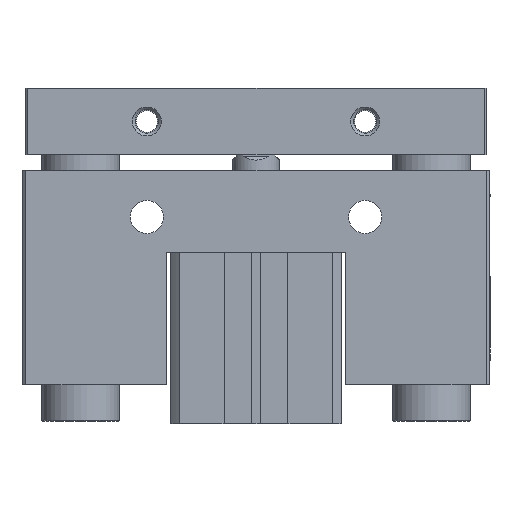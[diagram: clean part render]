
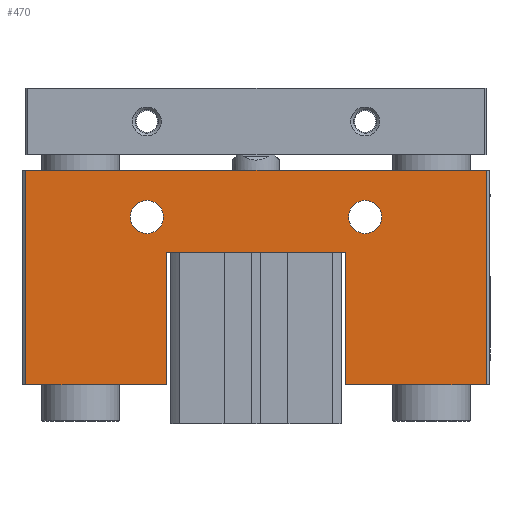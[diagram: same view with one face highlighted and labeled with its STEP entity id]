
A CAD part, front view. The second image highlights one B-rep face of the part: STEP entity #470.
In plain terms, the highlighted planar face has unit normal (0, -1, 0).
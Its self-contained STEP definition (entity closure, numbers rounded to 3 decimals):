
#199=CARTESIAN_POINT('',(-62.726,-23.62,65.));
#200=VERTEX_POINT('',#199);
#207=CARTESIAN_POINT('',(55.274,-23.62,65.));
#208=VERTEX_POINT('',#207);
#209=CARTESIAN_POINT('',(-62.726,-23.62,65.));
#210=DIRECTION('',(1.0,0.0,0.0));
#211=VECTOR('',#210,118.);
#212=LINE('',#209,#211);
#213=EDGE_CURVE('',#200,#208,#212,.T.);
#376=CARTESIAN_POINT('',(-62.726,-23.62,10.));
#377=VERTEX_POINT('',#376);
#384=CARTESIAN_POINT('',(-62.726,-23.62,10.));
#385=DIRECTION('',(0.0,0.0,1.0));
#386=VECTOR('',#385,55.);
#387=LINE('',#384,#386);
#388=EDGE_CURVE('',#377,#200,#387,.T.);
#393=CARTESIAN_POINT('',(-3.726,-23.62,39.533));
#394=DIRECTION('',(0.0,1.0,0.0));
#395=DIRECTION('',(0.0,0.0,1.0));
#396=AXIS2_PLACEMENT_3D('',#393,#394,#395);
#397=PLANE('',#396);
#398=ORIENTED_EDGE('',*,*,#388,.F.);
#399=CARTESIAN_POINT('',(-26.726,-23.62,10.));
#400=VERTEX_POINT('',#399);
#401=CARTESIAN_POINT('',(-26.726,-23.62,10.));
#402=DIRECTION('',(-1.0,0.0,0.0));
#403=VECTOR('',#402,36.);
#404=LINE('',#401,#403);
#405=EDGE_CURVE('',#400,#377,#404,.T.);
#406=ORIENTED_EDGE('',*,*,#405,.F.);
#407=CARTESIAN_POINT('',(-26.726,-23.62,44.0));
#408=VERTEX_POINT('',#407);
#409=CARTESIAN_POINT('',(-26.726,-23.62,44.0));
#410=DIRECTION('',(0.0,0.0,-1.0));
#411=VECTOR('',#410,34.);
#412=LINE('',#409,#411);
#413=EDGE_CURVE('',#408,#400,#412,.T.);
#414=ORIENTED_EDGE('',*,*,#413,.F.);
#415=CARTESIAN_POINT('',(19.274,-23.62,44.0));
#416=VERTEX_POINT('',#415);
#417=CARTESIAN_POINT('',(19.274,-23.62,44.0));
#418=DIRECTION('',(-1.0,0.0,0.0));
#419=VECTOR('',#418,46.);
#420=LINE('',#417,#419);
#421=EDGE_CURVE('',#416,#408,#420,.T.);
#422=ORIENTED_EDGE('',*,*,#421,.F.);
#423=CARTESIAN_POINT('',(19.274,-23.62,10.));
#424=VERTEX_POINT('',#423);
#425=CARTESIAN_POINT('',(19.274,-23.62,10.));
#426=DIRECTION('',(0.0,0.0,1.0));
#427=VECTOR('',#426,34.);
#428=LINE('',#425,#427);
#429=EDGE_CURVE('',#424,#416,#428,.T.);
#430=ORIENTED_EDGE('',*,*,#429,.F.);
#431=CARTESIAN_POINT('',(55.274,-23.62,10.));
#432=VERTEX_POINT('',#431);
#433=CARTESIAN_POINT('',(55.274,-23.62,10.));
#434=DIRECTION('',(-1.0,0.0,0.0));
#435=VECTOR('',#434,36.);
#436=LINE('',#433,#435);
#437=EDGE_CURVE('',#432,#424,#436,.T.);
#438=ORIENTED_EDGE('',*,*,#437,.F.);
#439=CARTESIAN_POINT('',(55.274,-23.62,65.));
#440=DIRECTION('',(0.0,0.0,-1.0));
#441=VECTOR('',#440,55.);
#442=LINE('',#439,#441);
#443=EDGE_CURVE('',#208,#432,#442,.T.);
#444=ORIENTED_EDGE('',*,*,#443,.F.);
#445=ORIENTED_EDGE('',*,*,#213,.F.);
#446=EDGE_LOOP('',(#398,#406,#414,#422,#430,#438,#444,#445));
#447=FACE_OUTER_BOUND('',#446,.T.);
#448=CARTESIAN_POINT('',(-35.976,-23.62,53.));
#449=VERTEX_POINT('',#448);
#450=CARTESIAN_POINT('',(-31.726,-23.62,53.));
#451=DIRECTION('',(0.0,1.0,0.0));
#452=DIRECTION('',(1.0,0.0,0.0));
#453=AXIS2_PLACEMENT_3D('',#450,#451,#452);
#454=CIRCLE('',#453,4.25);
#455=EDGE_CURVE('',#449,#449,#454,.T.);
#456=ORIENTED_EDGE('',*,*,#455,.T.);
#457=EDGE_LOOP('',(#456));
#458=FACE_BOUND('',#457,.T.);
#459=CARTESIAN_POINT('',(20.024,-23.62,53.));
#460=VERTEX_POINT('',#459);
#461=CARTESIAN_POINT('',(24.274,-23.62,53.));
#462=DIRECTION('',(0.0,1.0,0.0));
#463=DIRECTION('',(1.0,0.0,0.0));
#464=AXIS2_PLACEMENT_3D('',#461,#462,#463);
#465=CIRCLE('',#464,4.25);
#466=EDGE_CURVE('',#460,#460,#465,.T.);
#467=ORIENTED_EDGE('',*,*,#466,.T.);
#468=EDGE_LOOP('',(#467));
#469=FACE_BOUND('',#468,.T.);
#470=ADVANCED_FACE('',(#447,#458,#469),#397,.F.);
